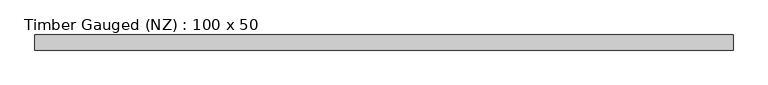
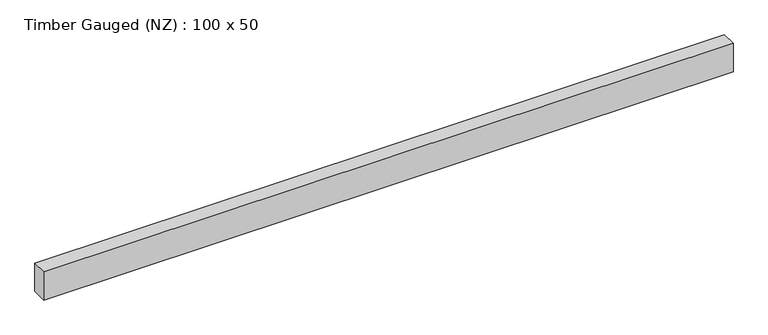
"""IFC4 building model written with IfcOpenShell, lengths in millimetres: beam geometry, Timber Gauged (NZ) : 100 x 50."""

from ifc_helpers import new_model, si_unit, frame, origin, place, context, project, spatial, polyline, outline, extrude, source, transform, mapped, element, save


def timber_gauged_nz_100_x_50_7b7bee40(model_context):
    return source(origin(), model_context, "Body", "SweptSolid", [
        extrude(outline(polyline([(1029.0, 23.5), (1029.0, -23.5), (-1143.0, -23.5), (-1143.0, 23.5), (1029.0, 23.5)])), frame((0.0, 0.0, -47.0), z_axis=(0.0, 0.0, 1.0), x_axis=(1.0, 0.0, 0.0)), (0.0, 0.0, 1.0), 94.0),
    ])


if __name__ == "__main__":
    model = new_model("IFC4")
    model_context = context("Model", 3, world=origin())
    ifc_project = project(units=[si_unit("LENGTHUNIT", "METRE", prefix="MILLI")], contexts=[model_context])
    site = spatial("IfcSite", under=ifc_project)
    building = spatial("IfcBuilding", under=site)
    placement = place(None, origin())
    timber_gauged_nz_100_x_50_shape = timber_gauged_nz_100_x_50_7b7bee40(model_context)
    element("IfcBeam", 1, ObjectType="Timber Gauged (NZ) : 100 x 50", at=placement, inside=building, context=model_context, shape_type="MappedRepresentation", body=[
        mapped(timber_gauged_nz_100_x_50_shape, transform((0.0, 0.0, 0.0), x_axis=(1.0, 0.0, 0.0), y_axis=(0.0, 1.0, 0.0), z_axis=(0.0, 0.0, 1.0))),
    ])
    save(model, "model.ifc")
